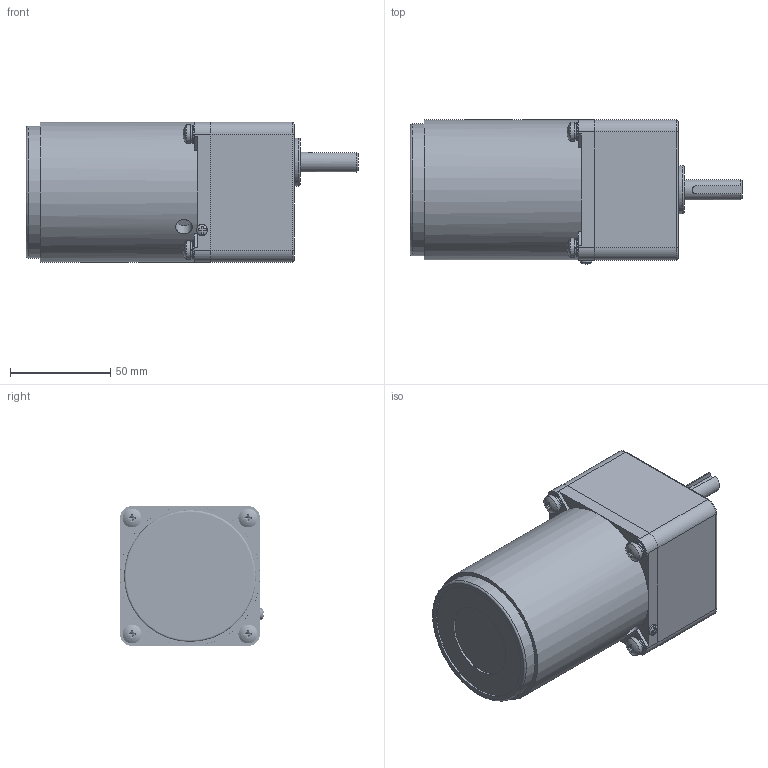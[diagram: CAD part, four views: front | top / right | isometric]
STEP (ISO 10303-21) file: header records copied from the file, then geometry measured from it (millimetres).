
FILE_DESCRIPTION(/* description */ (''),/* implementation_level */ '2;1');
FILE_NAME(/* name */ '70高箱L-25普通.stp',/* time_stamp */ '2022-10-31T09:52:17+08:00',/* author */ (''),/* organization */ (''),/* preprocessor_version */ 'ST-DEVELOPER v16.7',/* originating_system */ 'SIEMENS PLM Software NX 1899',/* authorisation */ '');
FILE_SCHEMA (('AP203_CONFIGURATION_CONTROLLED_3D_DESIGN_OF_MECHANICAL_PARTS_AND_ASSEMBLIES_MIM_LF { 1 0 10303 403 2 1 2}'));
Products named in the file (1): yf186188FEB6lcfs
Bounding box: 166 x 72.04 x 70 mm (x, y, z)
Volume: 563216.6 mm3; surface area: 61436.6 mm2
Topology: 14 solids, 15 shells, 297 faces, 744 edges, 496 vertices
Faces by surface type: plane 120, bspline 88, cylinder 66, torus 11, cone 7, sphere 5
Full cylindrical faces by diameter (mm): 2.7 x1, 4.826 x4, 5 x4, 5.3 x4, 5.6 x1, 6 x5, 8.3 x1, 9 x4, 9.5 x4, 10 x1, 24 x1, 37 x1, 60 x1, 63 x1, 66 x1, 66.6 x2, 70 x1
Entity records: 68833 total; most frequent: CARTESIAN_POINT 62295, ORIENTED_EDGE 1308, DIRECTION 1037, EDGE_CURVE 654, VERTEX_POINT 460, AXIS2_PLACEMENT_3D 429, EDGE_LOOP 393, ADVANCED_FACE 297
